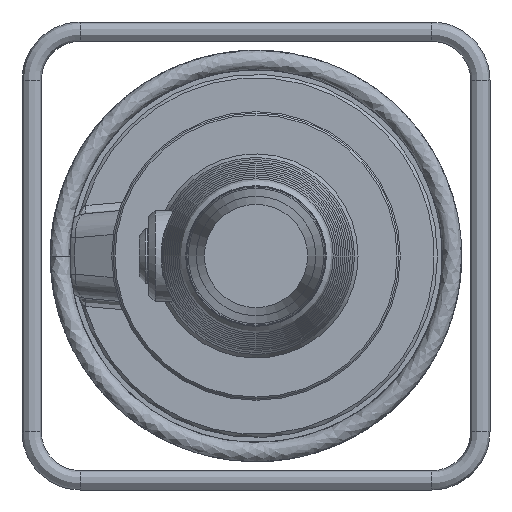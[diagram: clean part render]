
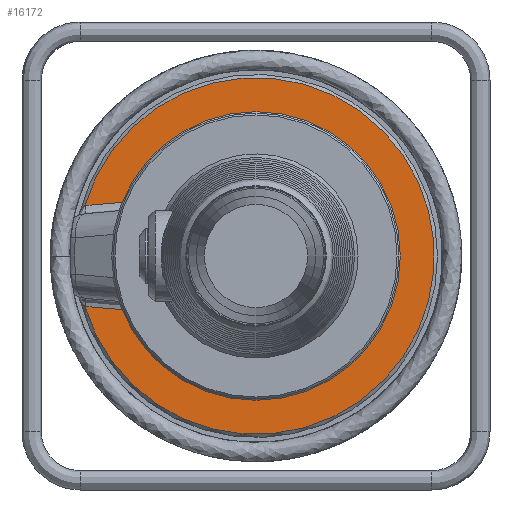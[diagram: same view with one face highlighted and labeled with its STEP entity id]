
A CAD part, left-side view. The second image highlights one B-rep face of the part: STEP entity #16172.
In plain terms, the highlighted planar face has unit normal (-1, 0, 0).
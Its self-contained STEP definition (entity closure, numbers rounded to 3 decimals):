
#1598=PLANE('',#17121);
#2462=LINE('',#37643,#3327);
#2463=LINE('',#37647,#3328);
#3327=VECTOR('',#19836,40.842);
#3328=VECTOR('',#19839,40.842);
#4495=FACE_OUTER_BOUND('',#5603,.T.);
#5603=EDGE_LOOP('',(#14323,#14324,#14325,#14326));
#6278=CIRCLE('',#17122,110.5);
#6279=CIRCLE('',#17123,74.);
#7837=VERTEX_POINT('',#37641);
#7838=VERTEX_POINT('',#37642);
#7839=VERTEX_POINT('',#37644);
#7840=VERTEX_POINT('',#37646);
#10048=EDGE_CURVE('',#7837,#7838,#2462,.T.);
#10049=EDGE_CURVE('',#7839,#7837,#6278,.T.);
#10050=EDGE_CURVE('',#7840,#7839,#2463,.T.);
#10051=EDGE_CURVE('',#7840,#7838,#6279,.T.);
#14323=ORIENTED_EDGE('',*,*,#10048,.F.);
#14324=ORIENTED_EDGE('',*,*,#10049,.F.);
#14325=ORIENTED_EDGE('',*,*,#10050,.F.);
#14326=ORIENTED_EDGE('',*,*,#10051,.T.);
#16172=ADVANCED_FACE('',(#4495),#1598,.T.);
#17121=AXIS2_PLACEMENT_3D('',#37640,#19834,#19835);
#17122=AXIS2_PLACEMENT_3D('',#37645,#19837,#19838);
#17123=AXIS2_PLACEMENT_3D('',#37648,#19840,#19841);
#19834=DIRECTION('center_axis',(-1.,0.,0.));
#19835=DIRECTION('ref_axis',(0.,0.,1.));
#19836=DIRECTION('',(0.,-0.996,-0.087));
#19837=DIRECTION('center_axis',(1.,0.,0.));
#19838=DIRECTION('ref_axis',(0.,-1.,0.));
#19839=DIRECTION('',(0.,0.996,-0.087));
#19840=DIRECTION('center_axis',(1.,0.,0.));
#19841=DIRECTION('ref_axis',(0.,-1.,0.));
#37640=CARTESIAN_POINT('Origin',(-20.,-92.25,0.));
#37641=CARTESIAN_POINT('',(-20.,105.991,-31.245));
#37642=CARTESIAN_POINT('',(-20.,65.304,-34.804));
#37643=CARTESIAN_POINT('',(-20.,0.632,-40.462));
#37644=CARTESIAN_POINT('',(-20.,105.991,31.245));
#37645=CARTESIAN_POINT('Origin',(-20.,0.,
0.));
#37646=CARTESIAN_POINT('',(-20.,65.304,34.804));
#37647=CARTESIAN_POINT('',(-20.,0.632,40.462));
#37648=CARTESIAN_POINT('Origin',(-20.,0.,
0.));
